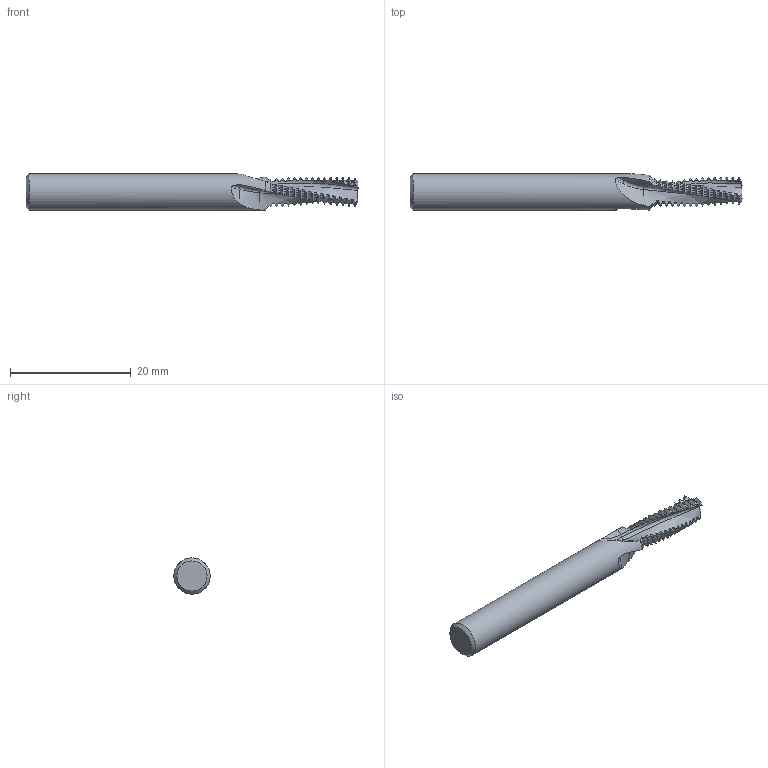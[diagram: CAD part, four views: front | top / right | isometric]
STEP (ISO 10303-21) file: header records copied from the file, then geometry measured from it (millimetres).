
FILE_DESCRIPTION(/* description */ (''),/* implementation_level */ '2;1');
FILE_NAME(/* name */ '00030822-STEP',/* time_stamp */ '2024-02-09T08:56:05+01:00',/* author */ (''),/* organization */ (''),/* preprocessor_version */ 'ST-DEVELOPER v16.5',/* originating_system */ 'HiCAD 2017 2201.0 Build 268',/* authorisation */ '');
FILE_SCHEMA (('AUTOMOTIVE_DESIGN { 1 0 10303 214 1 1 1 1 }'));
Length unit declared in the file: millimetre
Products named in the file (2): Root; ROTATIONSTEIL_0
Assembly tree (1 placements, depth 2):
  Root
    ROTATIONSTEIL_0
Bounding box: 55 x 6 x 6 mm (x, y, z)
Volume: 1176.8 mm3; surface area: 1042.2 mm2
Topology: 1 solids, 1 shells, 346 faces, 1020 edges, 676 vertices
Faces by surface type: cone 94, cylinder 94, torus 87, bspline 66, plane 5
Full cylindrical faces by diameter (mm): 6 x1
Entity records: 35745 total; most frequent: CARTESIAN_POINT 18515, PRESENTATION_STYLE_ASSIGNMENT 2035, COLOUR_RGB 2035, DRAUGHTING_PRE_DEFINED_CURVE_FONT 2034, CURVE_STYLE 2034, OVER_RIDING_STYLED_ITEM 2034, ORIENTED_EDGE 2034, DIRECTION 1126
